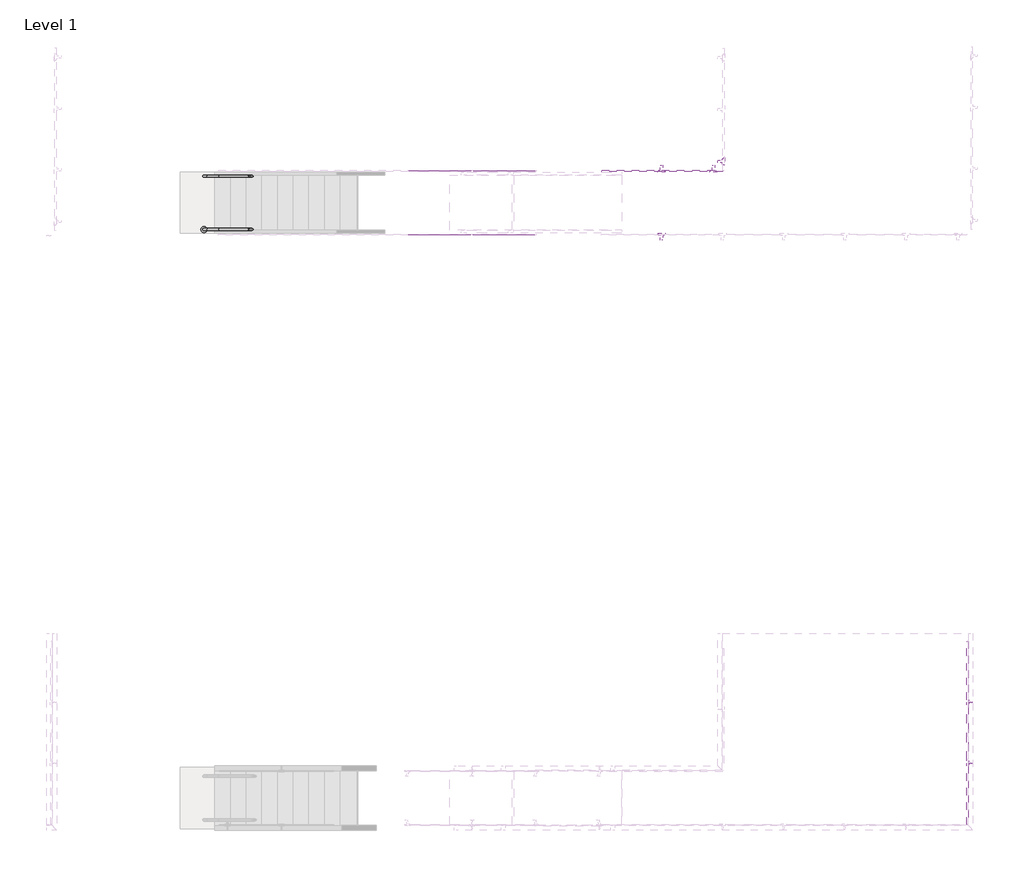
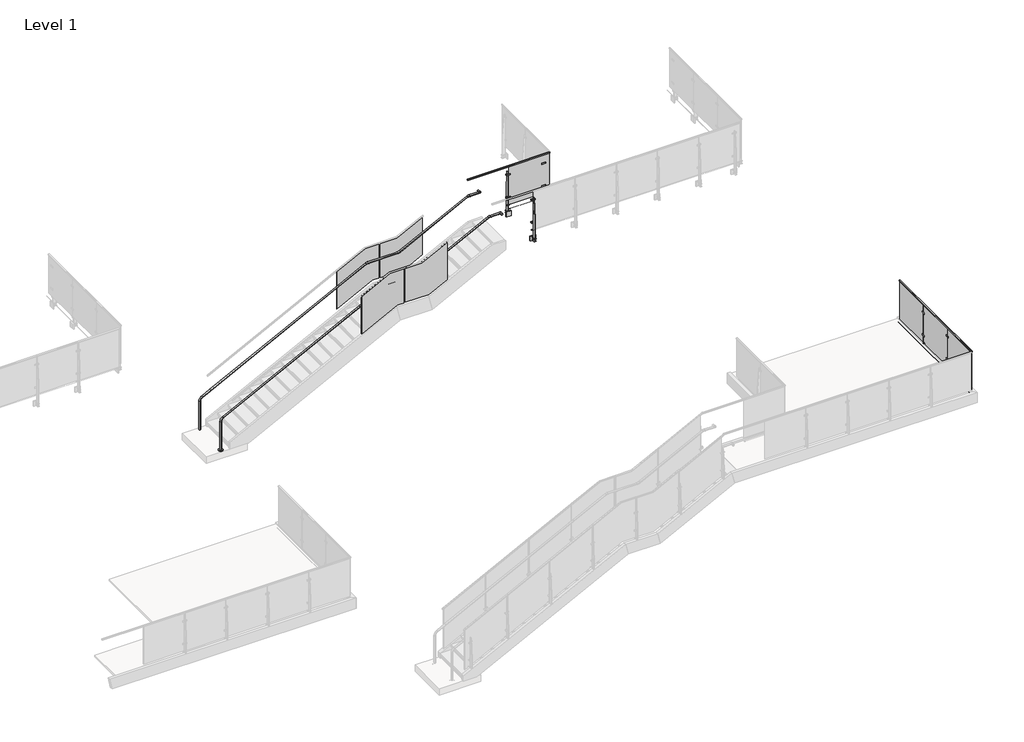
# One storey, part 30 of 37: 6 proxies, 6 railings.
"""IFC4 building model written with IfcOpenShell, lengths in millimetres."""

from ifc_helpers import new_model, si_unit, point, frame, frame_2d, origin, origin_with_axes, place, context, project, spatial, polyline, circle_curve, ellipse_curve, trimmed, segment, composite_curve, outline, extrude, faceted_brep, transform, mapped, element, save
from ifc_brep_helpers import plane_surface, cylinder_surface, revolved_surface, advanced_brep
from components import baluster_end_post_viva_solo_top_mount_260e03f1, baluster_end_post_viva_solo_top_mount_5a94812b, baluster_end_post_viva_solo_top_mount_2ca36c6b, baluster_landing_panel_viva_solo_lower_standard_glass_4be65d3f, baluster_landing_panel_viva_solo_lower_standard_glass_d9afa7e0, baluster_landing_panel_viva_solo_upper_standard_glass_c8f52b50, baluster_landing_panel_viva_solo_upper_standard_glass_884fc629

model = new_model("IFC4")

# Units and contexts
model_context = context("Model", 3, world=origin())
ifc_project = project(units=[si_unit("LENGTHUNIT", "METRE", prefix="MILLI")], contexts=[model_context])

# Site, building, storey
site = spatial("IfcSite", under=ifc_project)
building = spatial("IfcBuilding", under=site)
storey = spatial("IfcBuildingStorey", under=building, Name="Level 1", Elevation=0.0)

# Proxies
placement = place(None, origin())
baluster_end_post_viva_solo_top_mount_shape = baluster_end_post_viva_solo_top_mount_260e03f1(model_context)
element("IfcBuildingElementProxy", 1, Name="Baluster-End-Post-VIVA-SOLO-Top Mount : ANCHORED TO CONCRETE_FASCIA B1 MOUNT FOLD_STRAIGHT", ObjectType="Baluster-End-Post-VIVA-SOLO-Top Mount : ANCHORED TO CONCRETE_FASCIA B1 MOUNT FOLD_STRAIGHT", at=placement, inside=storey, context=model_context, shape_type="MappedRepresentation", body=[
    mapped(baluster_end_post_viva_solo_top_mount_shape, transform((9815.6346922, 23803.7183835, 3047.492), x_axis=(-1.0, 0.0, 0.0), y_axis=(0.0, -1.0, 0.0), z_axis=(0.0, 0.0, 1.0))),
])
baluster_end_post_viva_solo_top_mount_2_shape = baluster_end_post_viva_solo_top_mount_5a94812b(model_context)
element("IfcBuildingElementProxy", 2, Name="Baluster-End-Post-VIVA-SOLO-Top Mount : ANCHORED TO CONCRETE_FASCIA B1 MOUNT FOLD_STRAIGHT", ObjectType="Baluster-End-Post-VIVA-SOLO-Top Mount : ANCHORED TO CONCRETE_FASCIA B1 MOUNT FOLD_STRAIGHT", at=placement, inside=storey, context=model_context, shape_type="MappedRepresentation", body=[
    mapped(baluster_end_post_viva_solo_top_mount_2_shape, transform((9883.7633116, 23870.0118977, 3047.492), x_axis=(0.0, -1.0, 0.0), y_axis=(1.0, 0.0, 0.0), z_axis=(0.0, 0.0, 1.0))),
])
baluster_end_post_viva_solo_top_mount_3_shape = baluster_end_post_viva_solo_top_mount_2ca36c6b(model_context)
element("IfcBuildingElementProxy", 3, Name="Baluster-End-Post-VIVA-SOLO-Top Mount : ANCHORED TO CONCRETE_FASCIA B1 MOUNT FOLD_STRAIGHT", ObjectType="Baluster-End-Post-VIVA-SOLO-Top Mount : ANCHORED TO CONCRETE_FASCIA B1 MOUNT FOLD_STRAIGHT", at=placement, inside=storey, context=model_context, shape_type="MappedRepresentation", body=[
    mapped(baluster_end_post_viva_solo_top_mount_3_shape, transform((8799.6346922, 22860.1991645, 3047.492), x_axis=(1.0, 0.0, 0.0), y_axis=(0.0, 1.0, 0.0), z_axis=(0.0, 0.0, 1.0))),
])
element("IfcBuildingElementProxy", 4, Name="Baluster-End-Post-VIVA-SOLO-Top Mount : ANCHORED TO CONCRETE_FASCIA B1 MOUNT FOLD_STRAIGHT", ObjectType="Baluster-End-Post-VIVA-SOLO-Top Mount : ANCHORED TO CONCRETE_FASCIA B1 MOUNT FOLD_STRAIGHT", at=placement, inside=storey, context=model_context, shape_type="MappedRepresentation", body=[
    mapped(baluster_end_post_viva_solo_top_mount_3_shape, transform((8799.6346922, 23803.7183835, 3047.492), x_axis=(-1.0, 0.0, 0.0), y_axis=(0.0, -1.0, 0.0), z_axis=(0.0, 0.0, 1.0))),
])
element("IfcBuildingElementProxy", 5, Name="Metal-VIVA-Circular-1 1/2\"-Interior_Left", ObjectType="Metal-VIVA-Circular-1 1/2\"-Interior_Left", at=placement, inside=storey, context=model_context, shape_type="SolidModel", body=[
    advanced_brep(
    [(7796.9363892, 23755.8031645, 3758.1697243), (7796.9363892, 23793.9031645, 3758.1697243), (8069.9863892, 23755.8031645, 3758.1697243), (8031.8863892, 23793.9031645, 3758.1697243), (8069.9863892, 23838.3531645, 3758.1697243), (8031.8863892, 23838.3531645, 3758.1697243)],
    [
        (0, 1, circle_curve(frame((7796.9363892, 23774.8531645, 3758.1697243), z_axis=(-1.0, 0.0, 0.0), x_axis=(0.0, 1.0, 0.0)), 19.05)),
        (1, 0, circle_curve(frame((7796.9363892, 23774.8531645, 3758.1697243), z_axis=(-1.0, 0.0, 0.0), x_axis=(0.0, 1.0, 0.0)), 19.05)),
        (0, 2),
        (2, 3, ellipse_curve(frame((8050.9363892, 23774.8531645, 3758.1697243), z_axis=(-0.7071067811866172, -0.707106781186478, 0.0), x_axis=(-0.7071067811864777, 0.7071067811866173, 0.0)), 26.9407684, 19.05)),
        (3, 1),
        (3, 2, ellipse_curve(frame((8050.9363892, 23774.8531645, 3758.1697243), z_axis=(-0.7071067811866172, -0.707106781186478, 0.0), x_axis=(-0.7071067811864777, 0.7071067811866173, 0.0)), 26.9407684, 19.05)),
        (4, 5, circle_curve(frame((8050.9363892, 23838.3531645, 3758.1697243), z_axis=(0.0, 1.0, 0.0), x_axis=(-1.0, 0.0, 0.0)), 19.05)),
        (5, 4, circle_curve(frame((8050.9363892, 23838.3531645, 3758.1697243), z_axis=(0.0, 1.0, 0.0), x_axis=(-1.0, 0.0, 0.0)), 19.05)),
        (2, 4),
        (5, 3),
    ],
    [
        plane_surface(frame((7796.9363892, 23774.8531645, 3758.1697243), z_axis=(-1.0, 0.0, 0.0), x_axis=(0.0, 0.0, 1.0))),
        cylinder_surface(frame((7796.9363892, 23774.8531645, 3758.1697243), z_axis=(-1.0, 0.0, 0.0), x_axis=(0.0, 1.0, 0.0)), 19.05),
        plane_surface(frame((8050.9363892, 23838.3531645, 3758.1697243), z_axis=(0.0, 1.0, 0.0), x_axis=(0.0, 0.0, 1.0))),
        cylinder_surface(frame((8050.9363892, 23774.8531645, 3758.1697243), z_axis=(0.0, -1.0, 0.0), x_axis=(-1.0, 0.0, 0.0)), 19.05),
    ],
    [
        (0, [[1, 2]]),
        (1, [[-1, 3, 4, 5]]),
        (1, [[-2, -5, 6, -3]]),
        (2, [[7, 8]]),
        (3, [[-4, 9, -8, 10]]),
        (3, [[-6, -10, -7, -9]]),
    ],
),
    extrude(outline(composite_curve([segment(trimmed(circle_curve(frame_2d((1187.6734986, 23774.8531645)), 50.8), [point((1187.6734986, 23825.6531645))], [point((1187.6734986, 23724.0531645))], False, "CARTESIAN"), True, "CONTINUOUS"), segment(trimmed(circle_curve(frame_2d((1187.6734986, 23774.8531645)), 50.8), [point((1187.6734986, 23724.0531645))], [point((1187.6734986, 23825.6531645))], False, "CARTESIAN"), True, "CONTINUOUS")], self_intersect=False)), frame((0.0, 0.0, -49.8141969), z_axis=(0.0, 0.0, 1.0), x_axis=(1.0, 0.0, 0.0)), (0.0, 0.0, 1.0), 19.05),
    advanced_brep(
    [(1187.6734986, 23755.8031645, -30.7641969), (1187.6734986, 23793.9031645, -30.7641969), (1187.6734986, 23755.8031645, 742.5735715), (1187.6734986, 23793.9031645, 742.5735715), (1243.1848475, 23793.9031645, 833.1185672), (1243.1848475, 23755.8031645, 833.1185672), (1437.6151207, 23755.8031645, 932.0862566), (1437.6151207, 23793.9031645, 932.0862566), (4587.2151207, 23755.8031645, 2535.2760764), (4587.2151207, 23793.9031645, 2535.2760764), (5264.0903846, 23755.8031645, 2879.8149169), (5264.0903846, 23793.9031645, 2879.8149169), (5310.1790356, 23793.9031645, 2890.8699212), (5310.1790356, 23755.8031645, 2890.8699212), (6033.3498728, 23755.8031645, 2890.8699212), (6033.3498728, 23793.9031645, 2890.8699212), (6096.7217679, 23793.9031645, 2906.0705522), (6096.7217679, 23755.8031645, 2906.0705522), (7749.0231226, 23755.8031645, 3747.11472), (7749.0231226, 23793.9031645, 3747.11472), (7795.1117737, 23793.9031645, 3758.1697243), (7795.1117737, 23755.8031645, 3758.1697243), (7796.9363892, 23755.8031645, 3758.1697243), (7796.9363892, 23793.9031645, 3758.1697243)],
    [
        (0, 1, circle_curve(frame((1187.6734986, 23774.8531645, -30.7641969), z_axis=(0.0, 0.0, -1.0), x_axis=(0.0, 1.0, 0.0)), 19.05)),
        (1, 0, circle_curve(frame((1187.6734986, 23774.8531645, -30.7641969), z_axis=(0.0, 0.0, -1.0), x_axis=(0.0, 1.0, 0.0)), 19.05)),
        (0, 2),
        (2, 3, circle_curve(frame((1187.6734986, 23774.8531645, 742.5735715), z_axis=(0.0, 0.0, -1.0), x_axis=(0.0, 1.0, 0.0)), 19.05)),
        (3, 1),
        (3, 2, circle_curve(frame((1187.6734986, 23774.8531645, 742.5735715), z_axis=(0.0, 0.0, -1.0), x_axis=(0.0, 1.0, 0.0)), 19.05)),
        (4, 3, circle_curve(frame((1289.2734986, 23793.9031645, 742.5735715), z_axis=(0.0, -1.0, 0.0), x_axis=(-0.9999999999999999, 0.0, 0.0)), 101.6)),
        (2, 5, circle_curve(frame((1289.2734986, 23755.8031645, 742.5735715), z_axis=(0.0, 1.0, 0.0), x_axis=(-0.9999999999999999, 0.0, 0.0)), 101.6)),
        (5, 4, circle_curve(frame((1243.1848475, 23774.8531645, 833.1185672), z_axis=(-0.8911909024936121, 0.0, -0.45362845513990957), x_axis=(0.0, 0.9999999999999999, 0.0)), 19.05)),
        (4, 5, circle_curve(frame((1243.1848475, 23774.8531645, 833.1185672), z_axis=(-0.8911909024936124, 0.0, -0.45362845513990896), x_axis=(0.0, 0.9999999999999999, 0.0)), 19.05)),
        (5, 6),
        (6, 7, circle_curve(frame((1437.6151207, 23774.8531645, 932.0862566), z_axis=(-0.8911909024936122, 0.0, -0.4536284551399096), x_axis=(0.0, 1.0, 0.0)), 19.05)),
        (7, 4),
        (7, 6, circle_curve(frame((1437.6151207, 23774.8531645, 932.0862566), z_axis=(-0.8911909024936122, 0.0, -0.4536284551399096), x_axis=(0.0, 1.0, 0.0)), 19.05)),
        (6, 8),
        (8, 9, circle_curve(frame((4587.2151207, 23774.8531645, 2535.2760764), z_axis=(-0.8911909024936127, 0.0, -0.45362845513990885), x_axis=(0.0, 1.0, 0.0)), 19.05)),
        (9, 7),
        (9, 8, circle_curve(frame((4587.2151207, 23774.8531645, 2535.2760764), z_axis=(-0.8911909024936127, 0.0, -0.45362845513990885), x_axis=(0.0, 1.0, 0.0)), 19.05)),
        (8, 10),
        (10, 11, circle_curve(frame((5264.0903846, 23774.8531645, 2879.8149169), z_axis=(-0.8911909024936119, 0.0, -0.45362845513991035), x_axis=(0.0, 1.0, 0.0)), 19.05)),
        (11, 9),
        (11, 10, circle_curve(frame((5264.0903846, 23774.8531645, 2879.8149169), z_axis=(-0.8911909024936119, 0.0, -0.45362845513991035), x_axis=(0.0, 1.0, 0.0)), 19.05)),
        (12, 13, circle_curve(frame((5310.1790356, 23774.8531645, 2890.8699212), z_axis=(1.0, 0.0, 0.0), x_axis=(0.0, 1.0, 0.0)), 19.05)),
        (13, 14),
        (14, 15, circle_curve(frame((6033.3498728, 23774.8531645, 2890.8699212), z_axis=(-1.0, 0.0, 0.0), x_axis=(0.0, 1.0, 0.0)), 19.05)),
        (15, 12),
        (13, 12, circle_curve(frame((5310.1790356, 23774.8531645, 2890.8699212), z_axis=(1.0, 0.0, 0.0), x_axis=(0.0, 1.0, 0.0)), 19.05)),
        (15, 14, circle_curve(frame((6033.3498728, 23774.8531645, 2890.8699212), z_axis=(-1.0, 0.0, 0.0), x_axis=(0.0, 1.0, 0.0)), 19.05)),
        (16, 15, circle_curve(frame((6033.3498728, 23793.9031645, 3030.5699212), z_axis=(0.0, 1.0, 0.0), x_axis=(0.0, 0.0, -0.9999999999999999)), 139.7)),
        (14, 17, circle_curve(frame((6033.3498728, 23755.8031645, 3030.5699212), z_axis=(0.0, -1.0, 0.0), x_axis=(0.0, 0.0, -0.9999999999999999)), 139.7)),
        (17, 16, circle_curve(frame((6096.7217679, 23774.8531645, 2906.0705522), z_axis=(-0.8911909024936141, 0.0, -0.45362845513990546), x_axis=(0.0, 0.9999999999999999, 0.0)), 19.05)),
        (16, 17, circle_curve(frame((6096.7217679, 23774.8531645, 2906.0705522), z_axis=(-0.8911909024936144, 0.0, -0.45362845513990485), x_axis=(0.0, 0.9999999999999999, 0.0)), 19.05)),
        (17, 18),
        (18, 19, circle_curve(frame((7749.0231226, 23774.8531645, 3747.11472), z_axis=(-0.8911909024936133, 0.0, -0.4536284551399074), x_axis=(0.0, 1.0, 0.0)), 19.05)),
        (19, 16),
        (19, 18, circle_curve(frame((7749.0231226, 23774.8531645, 3747.11472), z_axis=(-0.8911909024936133, 0.0, -0.4536284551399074), x_axis=(0.0, 1.0, 0.0)), 19.05)),
        (20, 19, circle_curve(frame((7795.1117737, 23793.9031645, 3656.5697243), z_axis=(0.0, -1.0, 0.0), x_axis=(-0.4536284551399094, 0.0, 0.8911909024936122)), 101.6)),
        (18, 21, circle_curve(frame((7795.1117737, 23755.8031645, 3656.5697243), z_axis=(0.0, 1.0, 0.0), x_axis=(-0.4536284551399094, 0.0, 0.8911909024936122)), 101.6)),
        (21, 20, circle_curve(frame((7795.1117737, 23774.8531645, 3758.1697243), z_axis=(-0.9999999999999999, 0.0, 0.0), x_axis=(0.0, 1.0, 0.0)), 19.05)),
        (20, 21, circle_curve(frame((7795.1117737, 23774.8531645, 3758.1697243), z_axis=(-0.9999999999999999, 0.0, 0.0), x_axis=(0.0, 1.0, 0.0)), 19.05)),
        (22, 23, circle_curve(frame((7796.9363892, 23774.8531645, 3758.1697243), z_axis=(1.0, 0.0, 0.0), x_axis=(0.0, 1.0, 0.0)), 19.05)),
        (23, 22, circle_curve(frame((7796.9363892, 23774.8531645, 3758.1697243), z_axis=(1.0, 0.0, 0.0), x_axis=(0.0, 1.0, 0.0)), 19.05)),
        (21, 22),
        (23, 20),
        (12, 11, circle_curve(frame((5310.1790356, 23793.9031645, 2789.2699212), z_axis=(0.0, -1.0, 0.0), x_axis=(-0.4536284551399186, 0.0, 0.8911909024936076)), 101.6)),
        (10, 13, circle_curve(frame((5310.1790356, 23755.8031645, 2789.2699212), z_axis=(0.0, 1.0, 0.0), x_axis=(-0.4536284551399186, 0.0, 0.8911909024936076)), 101.6)),
    ],
    [
        plane_surface(frame((1168.6234986, 23736.7531645, -30.7641969), z_axis=(0.0, 0.0, -1.0), x_axis=(1.0, 0.0, 0.0))),
        cylinder_surface(frame((1187.6734986, 23774.8531645, -30.7641969), z_axis=(0.0, 0.0, -1.0), x_axis=(0.0, 1.0, 0.0)), 19.05),
        revolved_surface(trimmed(ellipse_curve(frame((1187.6734986, 23774.8531645, 742.5735715), z_axis=(0.0, 0.0, -0.9999999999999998), x_axis=(0.0, 0.9999999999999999, 0.0)), 19.05, 19.05), [point((1187.6734986, 23755.8031645, 742.5735715))], [point((1187.6734986, 23793.9031645, 742.5735715))], True, "CARTESIAN"), (1289.2734986, 23774.8531645, 742.5735715), (0.0, 0.9999999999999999, 0.0)),
        revolved_surface(trimmed(ellipse_curve(frame((1187.6734986, 23774.8531645, 742.5735715), z_axis=(0.0, 0.0, -0.9999999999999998), x_axis=(0.0, 0.9999999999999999, 0.0)), 19.05, 19.05), [point((1187.6734986, 23793.9031645, 742.5735715))], [point((1187.6734986, 23755.8031645, 742.5735715))], True, "CARTESIAN"), (1289.2734986, 23774.8531645, 742.5735715), (0.0, 0.9999999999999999, 0.0)),
        cylinder_surface(frame((1243.1848475, 23774.8531645, 833.1185672), z_axis=(-0.8911909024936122, 0.0, -0.4536284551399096), x_axis=(0.0, 1.0, 0.0)), 19.05),
        cylinder_surface(frame((1437.6151207, 23774.8531645, 932.0862566), z_axis=(-0.8911909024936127, 0.0, -0.45362845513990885), x_axis=(0.0, 1.0, 0.0)), 19.05),
        cylinder_surface(frame((4587.2151207, 23774.8531645, 2535.2760764), z_axis=(-0.8911909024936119, 0.0, -0.45362845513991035), x_axis=(0.0, 1.0, 0.0)), 19.05),
        cylinder_surface(frame((5310.1790356, 23774.8531645, 2890.8699212), z_axis=(-1.0, 0.0, 0.0), x_axis=(0.0, 1.0, 0.0)), 19.05),
        revolved_surface(trimmed(ellipse_curve(frame((6033.3498728, 23774.8531645, 2890.8699212), z_axis=(-0.9999999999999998, 0.0, 0.0), x_axis=(0.0, 0.9999999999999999, 0.0)), 19.05, 19.05), [point((6033.3498728, 23755.8031645, 2890.8699212))], [point((6033.3498728, 23793.9031645, 2890.8699212))], True, "CARTESIAN"), (6033.3498728, 23774.8531645, 3030.5699212), (0.0, -0.9999999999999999, 0.0)),
        revolved_surface(trimmed(ellipse_curve(frame((6033.3498728, 23774.8531645, 2890.8699212), z_axis=(-0.9999999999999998, 0.0, 0.0), x_axis=(0.0, 0.9999999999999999, 0.0)), 19.05, 19.05), [point((6033.3498728, 23793.9031645, 2890.8699212))], [point((6033.3498728, 23755.8031645, 2890.8699212))], True, "CARTESIAN"), (6033.3498728, 23774.8531645, 3030.5699212), (0.0, -0.9999999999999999, 0.0)),
        cylinder_surface(frame((6096.7217679, 23774.8531645, 2906.0705522), z_axis=(-0.8911909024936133, 0.0, -0.4536284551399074), x_axis=(0.0, 1.0, 0.0)), 19.05),
        revolved_surface(trimmed(ellipse_curve(frame((7749.0231226, 23774.8531645, 3747.11472), z_axis=(-0.8911909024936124, 0.0, -0.453628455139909), x_axis=(0.0, 1.0, 0.0)), 19.05, 19.05), [point((7749.0231226, 23755.8031645, 3747.11472))], [point((7749.0231226, 23793.9031645, 3747.11472))], True, "CARTESIAN"), (7795.1117737, 23774.8531645, 3656.5697243), (0.0, 1.0, 0.0)),
        revolved_surface(trimmed(ellipse_curve(frame((7749.0231226, 23774.8531645, 3747.11472), z_axis=(-0.8911909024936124, 0.0, -0.453628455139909), x_axis=(0.0, 1.0, 0.0)), 19.05, 19.05), [point((7749.0231226, 23793.9031645, 3747.11472))], [point((7749.0231226, 23755.8031645, 3747.11472))], True, "CARTESIAN"), (7795.1117737, 23774.8531645, 3656.5697243), (0.0, 1.0, 0.0)),
        plane_surface(frame((7796.9363892, 23774.8531645, 3777.2197243), z_axis=(1.0, 0.0, 0.0), x_axis=(0.0, 1.0, 0.0))),
        cylinder_surface(frame((7795.1117737, 23774.8531645, 3758.1697243), z_axis=(-1.0, 0.0, 0.0), x_axis=(0.0, 1.0, 0.0)), 19.05),
        revolved_surface(trimmed(ellipse_curve(frame((5264.0903846, 23774.8531645, 2879.8149169), z_axis=(-0.8911909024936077, 0.0, -0.45362845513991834), x_axis=(0.0, 1.0, 0.0)), 19.05, 19.05), [point((5264.0903846, 23755.8031645, 2879.8149169))], [point((5264.0903846, 23793.9031645, 2879.8149169))], True, "CARTESIAN"), (5310.1790356, 23774.8531645, 2789.2699212), (0.0, 1.0, 0.0)),
        revolved_surface(trimmed(ellipse_curve(frame((5264.0903846, 23774.8531645, 2879.8149169), z_axis=(-0.8911909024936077, 0.0, -0.45362845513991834), x_axis=(0.0, 1.0, 0.0)), 19.05, 19.05), [point((5264.0903846, 23793.9031645, 2879.8149169))], [point((5264.0903846, 23755.8031645, 2879.8149169))], True, "CARTESIAN"), (5310.1790356, 23774.8531645, 2789.2699212), (0.0, 1.0, 0.0)),
    ],
    [
        (0, [[1, 2]]),
        (1, [[-1, 3, 4, 5]]),
        (1, [[-2, -5, 6, -3]]),
        (2, [[7, -4, 8, 9]]),
        (3, [[-8, -6, -7, 10]]),
        (4, [[-9, 11, 12, 13]]),
        (4, [[-10, -13, 14, -11]]),
        (5, [[-12, 15, 16, 17]]),
        (5, [[-14, -17, 18, -15]]),
        (6, [[-16, 19, 20, 21]]),
        (6, [[-18, -21, 22, -19]]),
        (7, [[23, 24, 25, 26]]),
        (7, [[27, -26, 28, -24]]),
        (8, [[29, -25, 30, 31]]),
        (9, [[-30, -28, -29, 32]]),
        (10, [[-31, 33, 34, 35]]),
        (10, [[-32, -35, 36, -33]]),
        (11, [[37, -34, 38, 39]]),
        (12, [[-38, -36, -37, 40]]),
        (13, [[41, 42]]),
        (14, [[-39, 43, -42, 44]]),
        (14, [[-40, -44, -41, -43]]),
        (15, [[45, -20, 46, -23]]),
        (16, [[-46, -22, -45, -27]]),
    ],
),
])
element("IfcBuildingElementProxy", 6, Name="Metal-VIVA-Circular-1 1/2\"-Interior_Right", ObjectType="Metal-VIVA-Circular-1 1/2\"-Interior_Right", at=placement, inside=storey, context=model_context, shape_type="SolidModel", body=[
    advanced_brep(
    [(7796.9363892, 22869.9781645, 3758.1697243), (7796.9363892, 22908.0781645, 3758.1697243), (8069.9863892, 22908.0781645, 3758.1697243), (8031.8863892, 22869.9781645, 3758.1697243), (8031.8863892, 22825.5281645, 3758.1697243), (8069.9863892, 22825.5281645, 3758.1697243)],
    [
        (0, 1, circle_curve(frame((7796.9363892, 22889.0281645, 3758.1697243), z_axis=(-1.0, 0.0, 0.0), x_axis=(0.0, 1.0, 0.0)), 19.05)),
        (1, 0, circle_curve(frame((7796.9363892, 22889.0281645, 3758.1697243), z_axis=(-1.0, 0.0, 0.0), x_axis=(0.0, 1.0, 0.0)), 19.05)),
        (1, 2),
        (2, 3, ellipse_curve(frame((8050.9363892, 22889.0281645, 3758.1697243), z_axis=(-0.7071067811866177, 0.7071067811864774, 0.0), x_axis=(-0.7071067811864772, -0.7071067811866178, 0.0)), 26.9407684, 19.05)),
        (3, 0),
        (3, 2, ellipse_curve(frame((8050.9363892, 22889.0281645, 3758.1697243), z_axis=(-0.7071067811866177, 0.7071067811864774, 0.0), x_axis=(-0.7071067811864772, -0.7071067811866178, 0.0)), 26.9407684, 19.05)),
        (4, 5, circle_curve(frame((8050.9363892, 22825.5281645, 3758.1697243), z_axis=(0.0, -1.0, 0.0), x_axis=(1.0, 0.0, 0.0)), 19.05)),
        (5, 4, circle_curve(frame((8050.9363892, 22825.5281645, 3758.1697243), z_axis=(0.0, -1.0, 0.0), x_axis=(1.0, 0.0, 0.0)), 19.05)),
        (2, 5),
        (4, 3),
    ],
    [
        plane_surface(frame((7796.9363892, 22889.0281645, 3758.1697243), z_axis=(-1.0, 0.0, 0.0), x_axis=(0.0, 0.0, 1.0))),
        cylinder_surface(frame((7796.9363892, 22889.0281645, 3758.1697243), z_axis=(-1.0, 0.0, 0.0), x_axis=(0.0, 1.0, 0.0)), 19.05),
        plane_surface(frame((8050.9363892, 22825.5281645, 3758.1697243), z_axis=(0.0, -1.0, 0.0), x_axis=(0.0, 0.0, 1.0))),
        cylinder_surface(frame((8050.9363892, 22889.0281645, 3758.1697243), z_axis=(0.0, 1.0, 0.0), x_axis=(1.0, 0.0, 0.0)), 19.05),
    ],
    [
        (0, [[1, 2]]),
        (1, [[-2, 3, 4, 5]]),
        (1, [[-1, -5, 6, -3]]),
        (2, [[7, 8]]),
        (3, [[-4, 9, -7, 10]]),
        (3, [[-6, -10, -8, -9]]),
    ],
),
    extrude(outline(composite_curve([segment(trimmed(circle_curve(frame_2d((1187.6734986, 22889.0281645)), 50.8), [point((1187.6734986, 22939.8281645))], [point((1187.6734986, 22838.2281645))], False, "CARTESIAN"), True, "CONTINUOUS"), segment(trimmed(circle_curve(frame_2d((1187.6734986, 22889.0281645)), 50.8), [point((1187.6734986, 22838.2281645))], [point((1187.6734986, 22939.8281645))], False, "CARTESIAN"), True, "CONTINUOUS")], self_intersect=False)), origin_with_axes(), (0.0, 0.0, 1.0), 19.05),
    advanced_brep(
    [(1187.6734986, 22869.9781645, 19.05), (1187.6734986, 22908.0781645, 19.05), (1187.6734986, 22869.9781645, 742.5735715), (1187.6734986, 22908.0781645, 742.5735715), (1243.1848475, 22908.0781645, 833.1185672), (1243.1848475, 22869.9781645, 833.1185672), (1437.6151207, 22869.9781645, 932.0862566), (1437.6151207, 22908.0781645, 932.0862566), (4587.2151207, 22869.9781645, 2535.2760764), (4587.2151207, 22908.0781645, 2535.2760764), (5310.1790356, 22908.0781645, 2890.8699212), (5310.1790356, 22869.9781645, 2890.8699212), (6033.3498728, 22869.9781645, 2890.8699212), (6033.3498728, 22908.0781645, 2890.8699212), (6096.7217679, 22908.0781645, 2906.0705522), (6096.7217679, 22869.9781645, 2906.0705522), (7749.0231226, 22869.9781645, 3747.11472), (7749.0231226, 22908.0781645, 3747.11472), (7795.1117737, 22908.0781645, 3758.1697243), (7795.1117737, 22869.9781645, 3758.1697243), (7796.9363892, 22869.9781645, 3758.1697243), (7796.9363892, 22908.0781645, 3758.1697243), (5264.0903846, 22869.9781645, 2879.8149169), (5264.0903846, 22908.0781645, 2879.8149169)],
    [
        (0, 1, circle_curve(frame((1187.6734986, 22889.0281645, 19.05), z_axis=(0.0, 0.0, -1.0), x_axis=(0.0, 1.0, 0.0)), 19.05)),
        (1, 0, circle_curve(frame((1187.6734986, 22889.0281645, 19.05), z_axis=(0.0, 0.0, -1.0), x_axis=(0.0, 1.0, 0.0)), 19.05)),
        (0, 2),
        (2, 3, circle_curve(frame((1187.6734986, 22889.0281645, 742.5735715), z_axis=(0.0, 0.0, -1.0), x_axis=(0.0, 1.0, 0.0)), 19.05)),
        (3, 1),
        (3, 2, circle_curve(frame((1187.6734986, 22889.0281645, 742.5735715), z_axis=(0.0, 0.0, -1.0), x_axis=(0.0, 1.0, 0.0)), 19.05)),
        (4, 3, circle_curve(frame((1289.2734986, 22908.0781645, 742.5735715), z_axis=(0.0, -1.0, 0.0), x_axis=(-1.0, 0.0, 0.0)), 101.6)),
        (2, 5, circle_curve(frame((1289.2734986, 22869.9781645, 742.5735715), z_axis=(0.0, 1.0, 0.0), x_axis=(-1.0, 0.0, 0.0)), 101.6)),
        (5, 4, circle_curve(frame((1243.1848475, 22889.0281645, 833.1185672), z_axis=(-0.8911909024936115, 0.0, -0.45362845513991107), x_axis=(0.0, 1.0, 0.0)), 19.05)),
        (4, 5, circle_curve(frame((1243.1848475, 22889.0281645, 833.1185672), z_axis=(-0.8911909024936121, 0.0, -0.45362845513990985), x_axis=(0.0, 1.0, 0.0)), 19.05)),
        (5, 6),
        (6, 7, circle_curve(frame((1437.6151207, 22889.0281645, 932.0862566), z_axis=(-0.891190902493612, 0.0, -0.4536284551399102), x_axis=(0.0, 1.0, 0.0)), 19.05)),
        (7, 4),
        (7, 6, circle_curve(frame((1437.6151207, 22889.0281645, 932.0862566), z_axis=(-0.891190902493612, 0.0, -0.4536284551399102), x_axis=(0.0, 1.0, 0.0)), 19.05)),
        (6, 8),
        (8, 9, circle_curve(frame((4587.2151207, 22889.0281645, 2535.2760764), z_axis=(-0.8911909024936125, 0.0, -0.45362845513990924), x_axis=(0.0, 1.0, 0.0)), 19.05)),
        (9, 7),
        (9, 8, circle_curve(frame((4587.2151207, 22889.0281645, 2535.2760764), z_axis=(-0.8911909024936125, 0.0, -0.45362845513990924), x_axis=(0.0, 1.0, 0.0)), 19.05)),
        (10, 11, circle_curve(frame((5310.1790356, 22889.0281645, 2890.8699212), z_axis=(1.0, 0.0, 0.0), x_axis=(0.0, 1.0, 0.0)), 19.05)),
        (11, 12),
        (12, 13, circle_curve(frame((6033.3498728, 22889.0281645, 2890.8699212), z_axis=(-1.0, 0.0, 0.0), x_axis=(0.0, 1.0, 0.0)), 19.05)),
        (13, 10),
        (11, 10, circle_curve(frame((5310.1790356, 22889.0281645, 2890.8699212), z_axis=(1.0, 0.0, 0.0), x_axis=(0.0, 1.0, 0.0)), 19.05)),
        (13, 12, circle_curve(frame((6033.3498728, 22889.0281645, 2890.8699212), z_axis=(-1.0, 0.0, 0.0), x_axis=(0.0, 1.0, 0.0)), 19.05)),
        (14, 15, circle_curve(frame((6096.7217679, 22889.0281645, 2906.0705522), z_axis=(0.8911909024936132, 0.0, 0.453628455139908), x_axis=(0.0, 1.0, 0.0)), 19.05)),
        (15, 16),
        (16, 17, circle_curve(frame((7749.0231226, 22889.0281645, 3747.11472), z_axis=(-0.8911909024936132, 0.0, -0.453628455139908), x_axis=(0.0, 1.0, 0.0)), 19.05)),
        (17, 14),
        (15, 14, circle_curve(frame((6096.7217679, 22889.0281645, 2906.0705522), z_axis=(0.8911909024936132, 0.0, 0.453628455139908), x_axis=(0.0, 1.0, 0.0)), 19.05)),
        (17, 16, circle_curve(frame((7749.0231226, 22889.0281645, 3747.11472), z_axis=(-0.8911909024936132, 0.0, -0.453628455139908), x_axis=(0.0, 1.0, 0.0)), 19.05)),
        (14, 13, circle_curve(frame((6033.3498728, 22908.0781645, 3030.5699212), z_axis=(0.0, 1.0, 0.0), x_axis=(0.0, 0.0, -1.0)), 139.7)),
        (12, 15, circle_curve(frame((6033.3498728, 22869.9781645, 3030.5699212), z_axis=(0.0, -1.0, 0.0), x_axis=(0.0, 0.0, -1.0)), 139.7)),
        (18, 17, circle_curve(frame((7795.1117737, 22908.0781645, 3656.5697243), z_axis=(0.0, -1.0, 0.0), x_axis=(-0.45362845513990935, 0.0, 0.8911909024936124)), 101.6)),
        (16, 19, circle_curve(frame((7795.1117737, 22869.9781645, 3656.5697243), z_axis=(0.0, 1.0, 0.0), x_axis=(-0.45362845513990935, 0.0, 0.8911909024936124)), 101.6)),
        (19, 18, circle_curve(frame((7795.1117737, 22889.0281645, 3758.1697243), z_axis=(-1.0000000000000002, 0.0, 0.0), x_axis=(0.0, 1.0000000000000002, 0.0)), 19.05)),
        (18, 19, circle_curve(frame((7795.1117737, 22889.0281645, 3758.1697243), z_axis=(-1.0000000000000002, 0.0, 0.0), x_axis=(0.0, 1.0000000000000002, 0.0)), 19.05)),
        (20, 21, circle_curve(frame((7796.9363892, 22889.0281645, 3758.1697243), z_axis=(1.0, 0.0, 0.0), x_axis=(0.0, 1.0, 0.0)), 19.05)),
        (21, 20, circle_curve(frame((7796.9363892, 22889.0281645, 3758.1697243), z_axis=(1.0, 0.0, 0.0), x_axis=(0.0, 1.0, 0.0)), 19.05)),
        (19, 20),
        (21, 18),
        (8, 22),
        (22, 23, circle_curve(frame((5264.0903846, 22889.0281645, 2879.8149169), z_axis=(-0.8911909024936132, 0.0, -0.45362845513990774), x_axis=(0.0, 1.0, 0.0)), 19.05)),
        (23, 9),
        (23, 22, circle_curve(frame((5264.0903846, 22889.0281645, 2879.8149169), z_axis=(-0.8911909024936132, 0.0, -0.45362845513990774), x_axis=(0.0, 1.0, 0.0)), 19.05)),
        (10, 23, circle_curve(frame((5310.1790356, 22908.0781645, 2789.2699212), z_axis=(0.0, -1.0, 0.0), x_axis=(-0.45362845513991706, 0.0, 0.8911909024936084)), 101.6)),
        (22, 11, circle_curve(frame((5310.1790356, 22869.9781645, 2789.2699212), z_axis=(0.0, 1.0, 0.0), x_axis=(-0.45362845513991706, 0.0, 0.8911909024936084)), 101.6)),
    ],
    [
        plane_surface(frame((1168.6234986, 22850.9281645, 19.05), z_axis=(0.0, 0.0, -1.0), x_axis=(1.0, 0.0, 0.0))),
        cylinder_surface(frame((1187.6734986, 22889.0281645, 19.05), z_axis=(0.0, 0.0, -1.0), x_axis=(0.0, 1.0, 0.0)), 19.05),
        revolved_surface(trimmed(ellipse_curve(frame((1187.6734986, 22889.0281645, 742.5735715), z_axis=(0.0, 0.0, -1.0), x_axis=(0.0, 1.0, 0.0)), 19.05, 19.05), [point((1187.6734986, 22869.9781645, 742.5735715))], [point((1187.6734986, 22908.0781645, 742.5735715))], True, "CARTESIAN"), (1289.2734986, 22889.0281645, 742.5735715), (0.0, 1.0, 0.0)),
        revolved_surface(trimmed(ellipse_curve(frame((1187.6734986, 22889.0281645, 742.5735715), z_axis=(0.0, 0.0, -1.0), x_axis=(0.0, 1.0, 0.0)), 19.05, 19.05), [point((1187.6734986, 22908.0781645, 742.5735715))], [point((1187.6734986, 22869.9781645, 742.5735715))], True, "CARTESIAN"), (1289.2734986, 22889.0281645, 742.5735715), (0.0, 1.0, 0.0)),
        cylinder_surface(frame((1243.1848475, 22889.0281645, 833.1185672), z_axis=(-0.891190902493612, 0.0, -0.4536284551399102), x_axis=(0.0, 1.0, 0.0)), 19.05),
        cylinder_surface(frame((1437.6151207, 22889.0281645, 932.0862566), z_axis=(-0.8911909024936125, 0.0, -0.45362845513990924), x_axis=(0.0, 1.0, 0.0)), 19.05),
        cylinder_surface(frame((5310.1790356, 22889.0281645, 2890.8699212), z_axis=(-1.0, 0.0, 0.0), x_axis=(0.0, 1.0, 0.0)), 19.05),
        cylinder_surface(frame((6096.7217679, 22889.0281645, 2906.0705522), z_axis=(-0.8911909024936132, 0.0, -0.453628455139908), x_axis=(0.0, 1.0, 0.0)), 19.05),
        revolved_surface(trimmed(ellipse_curve(frame((6033.3498728, 22889.0281645, 2890.8699212), z_axis=(-1.0, 0.0, 0.0), x_axis=(0.0, 1.0, 0.0)), 19.05, 19.05), [point((6033.3498728, 22869.9781645, 2890.8699212))], [point((6033.3498728, 22908.0781645, 2890.8699212))], True, "CARTESIAN"), (6033.3498728, 22889.0281645, 3030.5699212), (0.0, -1.0, 0.0)),
        revolved_surface(trimmed(ellipse_curve(frame((6033.3498728, 22889.0281645, 2890.8699212), z_axis=(-1.0, 0.0, 0.0), x_axis=(0.0, 1.0, 0.0)), 19.05, 19.05), [point((6033.3498728, 22908.0781645, 2890.8699212))], [point((6033.3498728, 22869.9781645, 2890.8699212))], True, "CARTESIAN"), (6033.3498728, 22889.0281645, 3030.5699212), (0.0, -1.0, 0.0)),
        revolved_surface(trimmed(ellipse_curve(frame((7749.0231226, 22889.0281645, 3747.11472), z_axis=(-0.8911909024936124, 0.0, -0.4536284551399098), x_axis=(0.0, 1.0000000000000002, 0.0)), 19.05, 19.05), [point((7749.0231226, 22869.9781645, 3747.11472))], [point((7749.0231226, 22908.0781645, 3747.11472))], True, "CARTESIAN"), (7795.1117737, 22889.0281645, 3656.5697243), (0.0, 1.0000000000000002, 0.0)),
        revolved_surface(trimmed(ellipse_curve(frame((7749.0231226, 22889.0281645, 3747.11472), z_axis=(-0.8911909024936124, 0.0, -0.4536284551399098), x_axis=(0.0, 1.0000000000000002, 0.0)), 19.05, 19.05), [point((7749.0231226, 22908.0781645, 3747.11472))], [point((7749.0231226, 22869.9781645, 3747.11472))], True, "CARTESIAN"), (7795.1117737, 22889.0281645, 3656.5697243), (0.0, 1.0000000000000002, 0.0)),
        plane_surface(frame((7796.9363892, 22889.0281645, 3777.2197243), z_axis=(1.0, 0.0, 0.0), x_axis=(0.0, 1.0, 0.0))),
        cylinder_surface(frame((7795.1117737, 22889.0281645, 3758.1697243), z_axis=(-1.0, 0.0, 0.0), x_axis=(0.0, 1.0, 0.0)), 19.05),
        cylinder_surface(frame((4587.2151207, 22889.0281645, 2535.2760764), z_axis=(-0.8911909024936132, 0.0, -0.45362845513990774), x_axis=(0.0, 1.0, 0.0)), 19.05),
        revolved_surface(trimmed(ellipse_curve(frame((5264.0903846, 22889.0281645, 2879.8149169), z_axis=(-0.8911909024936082, 0.0, -0.4536284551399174), x_axis=(0.0, 1.0, 0.0)), 19.05, 19.05), [point((5264.0903846, 22869.9781645, 2879.8149169))], [point((5264.0903846, 22908.0781645, 2879.8149169))], True, "CARTESIAN"), (5310.1790356, 22889.0281645, 2789.2699212), (0.0, 1.0, 0.0)),
        revolved_surface(trimmed(ellipse_curve(frame((5264.0903846, 22889.0281645, 2879.8149169), z_axis=(-0.8911909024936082, 0.0, -0.4536284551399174), x_axis=(0.0, 1.0, 0.0)), 19.05, 19.05), [point((5264.0903846, 22908.0781645, 2879.8149169))], [point((5264.0903846, 22869.9781645, 2879.8149169))], True, "CARTESIAN"), (5310.1790356, 22889.0281645, 2789.2699212), (0.0, 1.0, 0.0)),
    ],
    [
        (0, [[1, 2]]),
        (1, [[-1, 3, 4, 5]]),
        (1, [[-2, -5, 6, -3]]),
        (2, [[7, -4, 8, 9]]),
        (3, [[-8, -6, -7, 10]]),
        (4, [[-9, 11, 12, 13]]),
        (4, [[-10, -13, 14, -11]]),
        (5, [[-12, 15, 16, 17]]),
        (5, [[-14, -17, 18, -15]]),
        (6, [[19, 20, 21, 22]]),
        (6, [[23, -22, 24, -20]]),
        (7, [[25, 26, 27, 28]]),
        (7, [[29, -28, 30, -26]]),
        (8, [[31, -21, 32, -25]]),
        (9, [[-32, -24, -31, -29]]),
        (10, [[33, -27, 34, 35]]),
        (11, [[-34, -30, -33, 36]]),
        (12, [[37, 38]]),
        (13, [[-35, 39, -38, 40]]),
        (13, [[-36, -40, -37, -39]]),
        (14, [[-16, 41, 42, 43]]),
        (14, [[-18, -43, 44, -41]]),
        (15, [[45, -42, 46, -19]]),
        (16, [[-46, -44, -45, -23]]),
    ],
),
])

# Railings
element("IfcRailing", 7, ObjectType="VIVA-SOLO-Glass-Top_Weld_Steel-Channel Mount-Straight", at=placement, inside=storey, context=model_context, shape_type="SweptSolid", body=[
    extrude(outline(composite_curve([segment(trimmed(circle_curve(frame_2d((3047.746, 13854.5521922)), 0.254), [point((3047.746, 13854.8061922))], [point((3047.746, 13854.2981922))], False, "CARTESIAN"), True, "CONTINUOUS"), segment(trimmed(circle_curve(frame_2d((3047.746, 13854.5521922)), 0.254), [point((3047.746, 13854.2981922))], [point((3047.746, 13854.8061922))], False, "CARTESIAN"), True, "CONTINUOUS")], self_intersect=False)), frame((0.0, 12987.2826645, 0.0), z_axis=(0.0, 1.0, 0.0), x_axis=(0.0, 0.0, 1.0)), (0.0, 0.0, 1.0), 3048.0),
    extrude(outline(composite_curve([segment(trimmed(circle_curve(frame_2d((3047.746, 13854.5521922)), 0.254), [point((3047.746, 13854.8061922))], [point((3047.746, 13854.2981922))], False, "CARTESIAN"), True, "CONTINUOUS"), segment(trimmed(circle_curve(frame_2d((3047.746, 13854.5521922)), 0.254), [point((3047.746, 13854.2981922))], [point((3047.746, 13854.8061922))], False, "CARTESIAN"), True, "CONTINUOUS")], self_intersect=False)), frame((0.0, 12987.2826645, 0.0), z_axis=(0.0, 1.0, 0.0), x_axis=(0.0, 0.0, 1.0)), (0.0, 0.0, 1.0), 3048.0),
    extrude(outline(polyline([(4127.5, 13901.8596922), (4127.5, 13879.6346922), (4102.1, 13879.6346922), (4102.1, 13884.3971922), (4122.7375, 13884.3971922), (4122.7375, 13897.0971922), (4102.1, 13897.0971922), (4102.1, 13901.8596922), (4127.5, 13901.8596922)])), frame((0.0, 12987.2826645, 0.0), z_axis=(0.0, 1.0, 0.0), x_axis=(0.0, 0.0, 1.0)), (0.0, 0.0, 1.0), 3048.0),
    extrude(outline(polyline([(13884.3971922, 15032.3657111), (13884.3971922, 16022.9657111), (13897.0971922, 16022.9657111), (13897.0971922, 15032.3657111), (13884.3971922, 15032.3657111)])), frame((0.0, 0.0, 3124.2), z_axis=(0.0, 0.0, 1.0), x_axis=(1.0, 0.0, 0.0)), (0.0, 0.0, 1.0), 998.474),
    extrude(outline(polyline([(3962.4, 13906.6221922), (3086.1, 13906.6221922), (3086.1, 13970.1221922), (3429.0, 13970.1221922), (3962.4, 13932.0221922), (3962.4, 13906.6221922)])), frame((0.0, 15012.9326645, 0.0), z_axis=(0.0, 1.0, 0.0), x_axis=(0.0, 0.0, 1.0)), (0.0, 0.0, 1.0), 12.7),
    extrude(outline(polyline([(13897.0971922, 14974.8326645), (13897.0971922, 15063.7326645), (13906.6221922, 15063.7326645), (13906.6221922, 14974.8326645), (13897.0971922, 14974.8326645)])), frame((0.0, 0.0, 3299.9910694), z_axis=(0.0, 0.0, 1.0), x_axis=(1.0, 0.0, 0.0)), (0.0, 0.0, 1.0), 31.75),
    extrude(outline(polyline([(13897.0971922, 14974.8326645), (13897.0971922, 15063.7326645), (13906.6221922, 15063.7326645), (13906.6221922, 14974.8326645), (13897.0971922, 14974.8326645)])), frame((0.0, 0.0, 3886.2992187), z_axis=(0.0, 0.0, 1.0), x_axis=(1.0, 0.0, 0.0)), (0.0, 0.0, 1.0), 31.75),
    extrude(outline(polyline([(13874.8721922, 14974.8326645), (13874.8721922, 15063.7326645), (13884.3971922, 15063.7326645), (13884.3971922, 14974.8326645), (13874.8721922, 14974.8326645)])), frame((0.0, 0.0, 3299.9910694), z_axis=(0.0, 0.0, 1.0), x_axis=(1.0, 0.0, 0.0)), (0.0, 0.0, 1.0), 31.75),
    extrude(outline(polyline([(13874.8721922, 14974.8326645), (13874.8721922, 15063.7326645), (13884.3971922, 15063.7326645), (13884.3971922, 14974.8326645), (13874.8721922, 14974.8326645)])), frame((0.0, 0.0, 3886.2992187), z_axis=(0.0, 0.0, 1.0), x_axis=(1.0, 0.0, 0.0)), (0.0, 0.0, 1.0), 31.75),
    extrude(outline(polyline([(15063.7326645, 3124.2), (15063.7326645, 3117.85), (15019.2826645, 3095.9353513), (14974.8326645, 3117.85), (14974.8326645, 3124.2), (15063.7326645, 3124.2)])), frame((13884.3971922, 0.0, 0.0), z_axis=(1.0, 0.0, 0.0), x_axis=(0.0, 1.0, 0.0)), (0.0, 0.0, 1.0), 12.7),
    extrude(outline(composite_curve([segment(trimmed(circle_curve(frame_2d((15019.2826645, 3315.8660694)), 6.35), [point((15025.6326645, 3315.8660694))], [point((15012.9326645, 3315.8660694))], False, "CARTESIAN"), True, "CONTINUOUS"), segment(trimmed(circle_curve(frame_2d((15019.2826645, 3315.8660694)), 6.35), [point((15012.9326645, 3315.8660694))], [point((15025.6326645, 3315.8660694))], False, "CARTESIAN"), True, "CONTINUOUS")], self_intersect=False)), frame((13884.3971922, 0.0, 0.0), z_axis=(1.0, 0.0, 0.0), x_axis=(0.0, 1.0, 0.0)), (0.0, 0.0, 1.0), 12.7),
    extrude(outline(composite_curve([segment(trimmed(circle_curve(frame_2d((15019.2826645, 3902.1742187)), 6.35), [point((15025.6326645, 3902.1742187))], [point((15012.9326645, 3902.1742187))], False, "CARTESIAN"), True, "CONTINUOUS"), segment(trimmed(circle_curve(frame_2d((15019.2826645, 3902.1742187)), 6.35), [point((15012.9326645, 3902.1742187))], [point((15025.6326645, 3902.1742187))], False, "CARTESIAN"), True, "CONTINUOUS")], self_intersect=False)), frame((13884.3971922, 0.0, 0.0), z_axis=(1.0, 0.0, 0.0), x_axis=(0.0, 1.0, 0.0)), (0.0, 0.0, 1.0), 12.7),
    extrude(outline(composite_curve([segment(trimmed(circle_curve(frame_2d((15019.2826645, 3108.325)), 11.1125), [point((15030.3951645, 3108.325))], [point((15008.1701645, 3108.325))], False, "CARTESIAN"), True, "CONTINUOUS"), segment(trimmed(circle_curve(frame_2d((15019.2826645, 3108.325)), 11.1125), [point((15008.1701645, 3108.325))], [point((15030.3951645, 3108.325))], False, "CARTESIAN"), True, "CONTINUOUS")], self_intersect=False)), frame((13881.2221922, 0.0, 0.0), z_axis=(1.0, 0.0, 0.0), x_axis=(0.0, 1.0, 0.0)), (0.0, 0.0, 1.0), 25.4),
    extrude(outline(polyline([(13884.3971922, 14016.3657111), (13884.3971922, 15006.9657111), (13897.0971922, 15006.9657111), (13897.0971922, 14016.3657111), (13884.3971922, 14016.3657111)])), frame((0.0, 0.0, 3124.2), z_axis=(0.0, 0.0, 1.0), x_axis=(1.0, 0.0, 0.0)), (0.0, 0.0, 1.0), 998.474),
    extrude(outline(polyline([(3962.4, 13906.6221922), (3086.1, 13906.6221922), (3086.1, 13970.1221922), (3429.0, 13970.1221922), (3962.4, 13932.0221922), (3962.4, 13906.6221922)])), frame((0.0, 13996.9326645, 0.0), z_axis=(0.0, 1.0, 0.0), x_axis=(0.0, 0.0, 1.0)), (0.0, 0.0, 1.0), 12.7),
    extrude(outline(polyline([(13897.0971922, 13958.8326645), (13897.0971922, 14047.7326645), (13906.6221922, 14047.7326645), (13906.6221922, 13958.8326645), (13897.0971922, 13958.8326645)])), frame((0.0, 0.0, 3299.9910694), z_axis=(0.0, 0.0, 1.0), x_axis=(1.0, 0.0, 0.0)), (0.0, 0.0, 1.0), 31.75),
    extrude(outline(polyline([(13897.0971922, 13958.8326645), (13897.0971922, 14047.7326645), (13906.6221922, 14047.7326645), (13906.6221922, 13958.8326645), (13897.0971922, 13958.8326645)])), frame((0.0, 0.0, 3886.2992187), z_axis=(0.0, 0.0, 1.0), x_axis=(1.0, 0.0, 0.0)), (0.0, 0.0, 1.0), 31.75),
    extrude(outline(polyline([(13874.8721922, 13958.8326645), (13874.8721922, 14047.7326645), (13884.3971922, 14047.7326645), (13884.3971922, 13958.8326645), (13874.8721922, 13958.8326645)])), frame((0.0, 0.0, 3299.9910694), z_axis=(0.0, 0.0, 1.0), x_axis=(1.0, 0.0, 0.0)), (0.0, 0.0, 1.0), 31.75),
    extrude(outline(polyline([(13874.8721922, 13958.8326645), (13874.8721922, 14047.7326645), (13884.3971922, 14047.7326645), (13884.3971922, 13958.8326645), (13874.8721922, 13958.8326645)])), frame((0.0, 0.0, 3886.2992187), z_axis=(0.0, 0.0, 1.0), x_axis=(1.0, 0.0, 0.0)), (0.0, 0.0, 1.0), 31.75),
    extrude(outline(polyline([(14047.7326645, 3124.2), (14047.7326645, 3117.85), (14003.2826645, 3095.9353513), (13958.8326645, 3117.85), (13958.8326645, 3124.2), (14047.7326645, 3124.2)])), frame((13884.3971922, 0.0, 0.0), z_axis=(1.0, 0.0, 0.0), x_axis=(0.0, 1.0, 0.0)), (0.0, 0.0, 1.0), 12.7),
    extrude(outline(composite_curve([segment(trimmed(circle_curve(frame_2d((14003.2826645, 3315.8660694)), 6.35), [point((14009.6326645, 3315.8660694))], [point((13996.9326645, 3315.8660694))], False, "CARTESIAN"), True, "CONTINUOUS"), segment(trimmed(circle_curve(frame_2d((14003.2826645, 3315.8660694)), 6.35), [point((13996.9326645, 3315.8660694))], [point((14009.6326645, 3315.8660694))], False, "CARTESIAN"), True, "CONTINUOUS")], self_intersect=False)), frame((13884.3971922, 0.0, 0.0), z_axis=(1.0, 0.0, 0.0), x_axis=(0.0, 1.0, 0.0)), (0.0, 0.0, 1.0), 12.7),
    extrude(outline(composite_curve([segment(trimmed(circle_curve(frame_2d((14003.2826645, 3902.1742187)), 6.35), [point((14009.6326645, 3902.1742187))], [point((13996.9326645, 3902.1742187))], False, "CARTESIAN"), True, "CONTINUOUS"), segment(trimmed(circle_curve(frame_2d((14003.2826645, 3902.1742187)), 6.35), [point((13996.9326645, 3902.1742187))], [point((14009.6326645, 3902.1742187))], False, "CARTESIAN"), True, "CONTINUOUS")], self_intersect=False)), frame((13884.3971922, 0.0, 0.0), z_axis=(1.0, 0.0, 0.0), x_axis=(0.0, 1.0, 0.0)), (0.0, 0.0, 1.0), 12.7),
    extrude(outline(composite_curve([segment(trimmed(circle_curve(frame_2d((14003.2826645, 3108.325)), 11.1125), [point((14014.3951645, 3108.325))], [point((13992.1701645, 3108.325))], False, "CARTESIAN"), True, "CONTINUOUS"), segment(trimmed(circle_curve(frame_2d((14003.2826645, 3108.325)), 11.1125), [point((13992.1701645, 3108.325))], [point((14014.3951645, 3108.325))], False, "CARTESIAN"), True, "CONTINUOUS")], self_intersect=False)), frame((13881.2221922, 0.0, 0.0), z_axis=(1.0, 0.0, 0.0), x_axis=(0.0, 1.0, 0.0)), (0.0, 0.0, 1.0), 25.4),
    extrude(outline(polyline([(13884.3971922, 13000.3657111), (13884.3971922, 13990.9657111), (13897.0971922, 13990.9657111), (13897.0971922, 13000.3657111), (13884.3971922, 13000.3657111)])), frame((0.0, 0.0, 3124.2), z_axis=(0.0, 0.0, 1.0), x_axis=(1.0, 0.0, 0.0)), (0.0, 0.0, 1.0), 998.474),
])
baluster_landing_panel_viva_solo_lower_standard_glass_shape = baluster_landing_panel_viva_solo_lower_standard_glass_4be65d3f(model_context)
element("IfcRailing", 8, ObjectType="Baluster-Landing-Panel-VIVA-SOLO-Lower : Standard_Glass", at=placement, inside=storey, context=model_context, shape_type="MappedRepresentation", body=[
    mapped(baluster_landing_panel_viva_solo_lower_standard_glass_shape, transform((4598.4721389, 22763.6791645, 2120.3478261), x_axis=(0.0, 1.0, 0.0), y_axis=(-1.0, 0.0, 0.0), z_axis=(0.0, 0.0, 1.0))),
])
baluster_landing_panel_viva_solo_lower_standard_glass_2_shape = baluster_landing_panel_viva_solo_lower_standard_glass_d9afa7e0(model_context)
element("IfcRailing", 9, ObjectType="Baluster-Landing-Panel-VIVA-SOLO-Lower : Standard_Glass", at=placement, inside=storey, context=model_context, shape_type="MappedRepresentation", body=[
    mapped(baluster_landing_panel_viva_solo_lower_standard_glass_2_shape, transform((4598.4721389, 23900.2021645, 2120.3478261), x_axis=(0.0, -1.0, 0.0), y_axis=(1.0, 0.0, 0.0), z_axis=(0.0, 0.0, 1.0))),
])
baluster_landing_panel_viva_solo_upper_standard_glass_shape = baluster_landing_panel_viva_solo_upper_standard_glass_c8f52b50(model_context)
element("IfcRailing", 10, ObjectType="Baluster-Landing-Panel-VIVA-SOLO-Upper : Standard_Glass", at=placement, inside=storey, context=model_context, shape_type="MappedRepresentation", body=[
    mapped(baluster_landing_panel_viva_solo_upper_standard_glass_shape, transform((6687.6128159, 22765.4089352, 2120.3478261), x_axis=(0.0, 1.0, 0.0), y_axis=(-1.0, 0.0, 0.0), z_axis=(0.0, 0.0, 1.0))),
])
baluster_landing_panel_viva_solo_upper_standard_glass_2_shape = baluster_landing_panel_viva_solo_upper_standard_glass_884fc629(model_context)
element("IfcRailing", 11, ObjectType="Baluster-Landing-Panel-VIVA-SOLO-Upper : Standard_Glass", at=placement, inside=storey, context=model_context, shape_type="MappedRepresentation", body=[
    mapped(baluster_landing_panel_viva_solo_upper_standard_glass_2_shape, transform((6687.6128159, 23898.4723937, 2120.3478261), x_axis=(0.0, -1.0, 0.0), y_axis=(1.0, 0.0, 0.0), z_axis=(0.0, 0.0, 1.0))),
])
element("IfcRailing", 12, ObjectType="VIVA-SOLO-Glass-Fascia Mount-Straight-B1", at=placement, inside=storey, context=model_context, shape_type="SolidModel", body=[
    extrude(outline(composite_curve([segment(trimmed(circle_curve(frame_2d((23803.7183835, 3047.746)), 0.254), [point((23803.4643835, 3047.746))], [point((23803.9723835, 3047.746))], False, "CARTESIAN"), True, "CONTINUOUS"), segment(trimmed(circle_curve(frame_2d((23803.7183835, 3047.746)), 0.254), [point((23803.9723835, 3047.746))], [point((23803.4643835, 3047.746))], False, "CARTESIAN"), True, "CONTINUOUS")], self_intersect=False)), frame((8799.6346922, 0.0, 0.0), z_axis=(1.0, 0.0, 0.0), x_axis=(0.0, 1.0, 0.0)), (0.0, 0.0, 1.0), 1016.0),
    extrude(outline(composite_curve([segment(trimmed(circle_curve(frame_2d((23803.7183835, 3047.746)), 0.254), [point((23803.4643835, 3047.746))], [point((23803.9723835, 3047.746))], False, "CARTESIAN"), True, "CONTINUOUS"), segment(trimmed(circle_curve(frame_2d((23803.7183835, 3047.746)), 0.254), [point((23803.9723835, 3047.746))], [point((23803.4643835, 3047.746))], False, "CARTESIAN"), True, "CONTINUOUS")], self_intersect=False)), frame((8799.6346922, 0.0, 0.0), z_axis=(1.0, 0.0, 0.0), x_axis=(0.0, 1.0, 0.0)), (0.0, 0.0, 1.0), 1016.0),
    faceted_brep([(9815.6346922, 23849.4383835, 4127.5), (9815.6346922, 23849.4383835, 4102.1), (9815.6346922, 23854.2008835, 4102.1), (9815.6346922, 23854.2008835, 4122.7375), (9815.6346922, 23866.9008835, 4122.7375), (9815.6346922, 23866.9008835, 4102.1), (9815.6346922, 23871.6633835, 4102.1), (9815.6346922, 23871.6633835, 4127.5), (8799.6346922, 23871.6633835, 4127.5), (8799.6346922, 23849.4383835, 4127.5), (8799.6346922, 23871.6633835, 4102.1), (8799.6346922, 23866.9008835, 4102.1), (8799.6346922, 23866.9008835, 4122.7375), (8799.6346922, 23854.2008835, 4122.7375), (8799.6346922, 23854.2008835, 4102.1), (8799.6346922, 23849.4383835, 4102.1), (7805.6215672, 23849.4383835, 4127.5), (7805.6215672, 23871.6633835, 4127.5), (7805.6215672, 23871.6633835, 4102.1), (7805.6215672, 23866.9008835, 4102.1), (7805.6215672, 23866.9008835, 4122.7375), (7805.6215672, 23854.2008835, 4122.7375), (7805.6215672, 23854.2008835, 4102.1), (7805.6215672, 23849.4383835, 4102.1)], [[[0, 1, 2, 3, 4, 5, 6, 7]], [[8, 9, 0, 7]], [[10, 8, 7, 6]], [[11, 10, 6, 5]], [[12, 11, 5, 4]], [[13, 12, 4, 3]], [[14, 13, 3, 2]], [[15, 14, 2, 1]], [[9, 15, 1, 0]], [[16, 17, 18, 19, 20, 21, 22, 23]], [[17, 16, 9, 8]], [[18, 17, 8, 10]], [[19, 18, 10, 11]], [[20, 19, 11, 12]], [[21, 20, 12, 13]], [[22, 21, 13, 14]], [[23, 22, 14, 15]], [[16, 23, 15, 9]]]),
    extrude(outline(polyline([(8812.7177388, 23854.2643835), (8812.7177388, 23866.9643835), (9803.3177388, 23866.9643835), (9803.3177388, 23854.2643835), (8812.7177388, 23854.2643835)])), frame((0.0, 0.0, 3124.2), z_axis=(0.0, 0.0, 1.0), x_axis=(1.0, 0.0, 0.0)), (0.0, 0.0, 1.0), 998.474),
])

save(model, "model.ifc")
